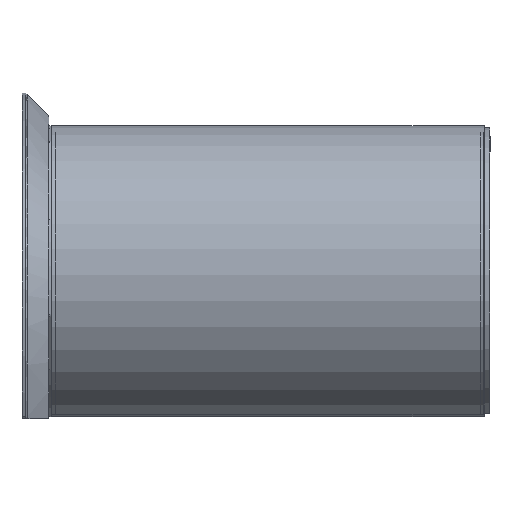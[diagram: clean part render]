
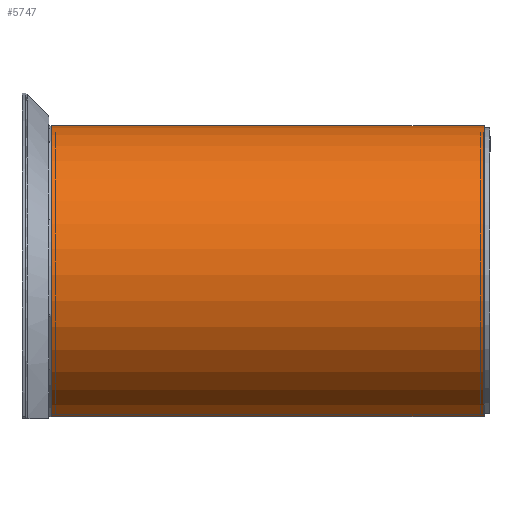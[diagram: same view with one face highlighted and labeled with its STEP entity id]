
A CAD part, left-side view. The second image highlights one B-rep face of the part: STEP entity #5747.
In plain terms, the highlighted cylindrical face has radius 230 mm (diameter 460 mm), a partial arc.
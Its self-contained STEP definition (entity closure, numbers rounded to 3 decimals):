
#28 = ORIENTED_EDGE ( 'NONE', *, *, #5037, .F. ) ;
#67 = CARTESIAN_POINT ( 'NONE',  ( 2., 665., -230. ) ) ;
#286 = VECTOR ( 'NONE', #6431, 1000. ) ;
#702 = DIRECTION ( 'NONE',  ( 0., 0., -1. ) ) ;
#791 = DIRECTION ( 'NONE',  ( 0., 0., 1. ) ) ;
#803 = VERTEX_POINT ( 'NONE', #1317 ) ;
#814 = EDGE_CURVE ( 'NONE', #803, #4525, #5807, .T. ) ;
#835 = CARTESIAN_POINT ( 'NONE',  ( 2., 665., 0. ) ) ;
#1307 = EDGE_CURVE ( 'NONE', #1688, #3813, #3837, .T. ) ;
#1317 = CARTESIAN_POINT ( 'NONE',  ( 2., 665., -230. ) ) ;
#1568 = CARTESIAN_POINT ( 'NONE',  ( 2., 665., 0. ) ) ;
#1688 = VERTEX_POINT ( 'NONE', #2245 ) ;
#1847 = CARTESIAN_POINT ( 'NONE',  ( 2., 665., 230. ) ) ;
#2245 = CARTESIAN_POINT ( 'NONE',  ( 2., 665., 230. ) ) ;
#2659 = DIRECTION ( 'NONE',  ( 0., -1., 0. ) ) ;
#3136 = EDGE_CURVE ( 'NONE', #3813, #4525, #7597, .T. ) ;
#3144 = CIRCLE ( 'NONE', #5952, 230. ) ;
#3813 = VERTEX_POINT ( 'NONE', #4264 ) ;
#3837 = LINE ( 'NONE', #1847, #286 ) ;
#3904 = CYLINDRICAL_SURFACE ( 'NONE', #6641, 230. ) ;
#4096 = DIRECTION ( 'NONE',  ( 0., 0., 1. ) ) ;
#4264 = CARTESIAN_POINT ( 'NONE',  ( 2., 0., 230. ) ) ;
#4525 = VERTEX_POINT ( 'NONE', #6928 ) ;
#4642 = DIRECTION ( 'NONE',  ( 0., 1., 0. ) ) ;
#4851 = VECTOR ( 'NONE', #2659, 1000. ) ;
#5037 = EDGE_CURVE ( 'NONE', #1688, #803, #3144, .T. ) ;
#5447 = EDGE_LOOP ( 'NONE', ( #5958, #6734, #28, #6446 ) ) ;
#5747 = ADVANCED_FACE ( 'NONE', ( #7124 ), #3904, .T. ) ;
#5807 = LINE ( 'NONE', #67, #4851 ) ;
#5952 = AXIS2_PLACEMENT_3D ( 'NONE', #835, #6551, #791 ) ;
#5958 = ORIENTED_EDGE ( 'NONE', *, *, #3136, .T. ) ;
#6431 = DIRECTION ( 'NONE',  ( 0., -1., 0. ) ) ;
#6446 = ORIENTED_EDGE ( 'NONE', *, *, #1307, .T. ) ;
#6551 = DIRECTION ( 'NONE',  ( 0., 1., 0. ) ) ;
#6641 = AXIS2_PLACEMENT_3D ( 'NONE', #1568, #6694, #702 ) ;
#6694 = DIRECTION ( 'NONE',  ( 0., -1., 0. ) ) ;
#6734 = ORIENTED_EDGE ( 'NONE', *, *, #814, .F. ) ;
#6928 = CARTESIAN_POINT ( 'NONE',  ( 2., 0., -230. ) ) ;
#7124 = FACE_OUTER_BOUND ( 'NONE', #5447, .T. ) ;
#7231 = CARTESIAN_POINT ( 'NONE',  ( 2., 0., 0. ) ) ;
#7597 = CIRCLE ( 'NONE', #7874, 230. ) ;
#7874 = AXIS2_PLACEMENT_3D ( 'NONE', #7231, #4642, #4096 ) ;
